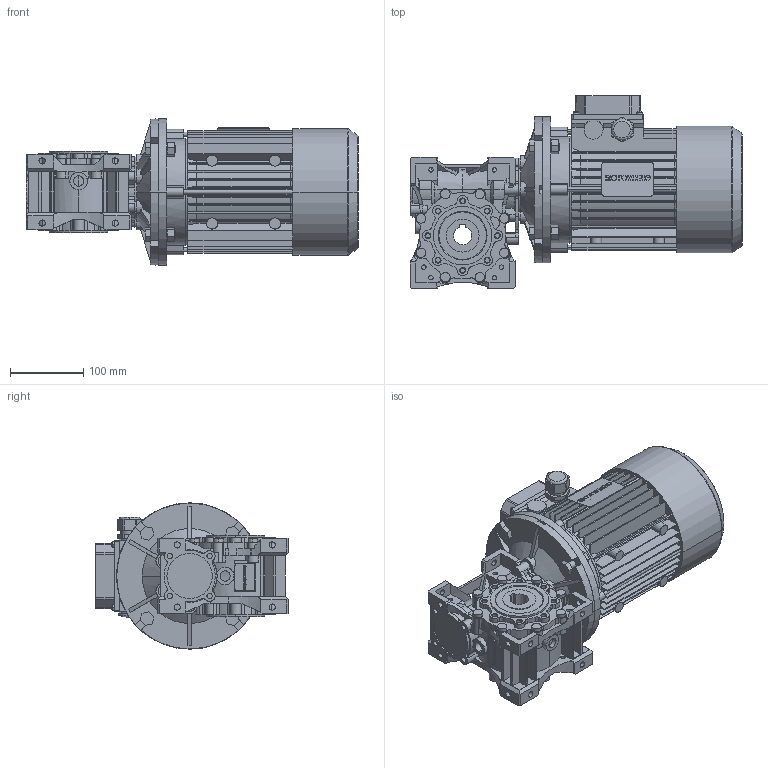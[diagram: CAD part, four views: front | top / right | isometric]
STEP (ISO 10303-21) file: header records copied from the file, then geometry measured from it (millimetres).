
FILE_DESCRIPTION( ( '' ), '1' );
FILE_NAME( '//expscmdclustefs.cadenas.external/client_exchange/iodir/jobs/output/wkb50627973_no0/STEP/NMRVP_063_7_5_200x24_25_NO_NO_____NO_______NO_T_090L_1_2_03.stp', '2012-10-31T08:58:48', ( '' ), ( '' ), ' ', ' ', ' ' );
FILE_SCHEMA( ( 'CONFIG_CONTROL_DESIGN' ) );
Length unit declared in the file: millimetre
Products named in the file (12): 1; 2; 3; 4; 5; 6; 7; 8; 9; 10; 11; 12
Bounding box: 454 x 263.6 x 200 mm (x, y, z)
Volume: 8176515.5 mm3; surface area: 892618.1 mm2
Topology: 12 solids, 16 shells, 3650 faces, 9980 edges, 6560 vertices
Faces by surface type: plane 1909, cylinder 1475, cone 250, torus 10, sphere 6
Entity records: 119495 total; most frequent: CARTESIAN_POINT 24024, DIRECTION 20439, ORIENTED_EDGE 19956, EDGE_CURVE 9978, AXIS2_PLACEMENT_3D 7300, VERTEX_POINT 6560, LINE 5839, VECTOR 5839
